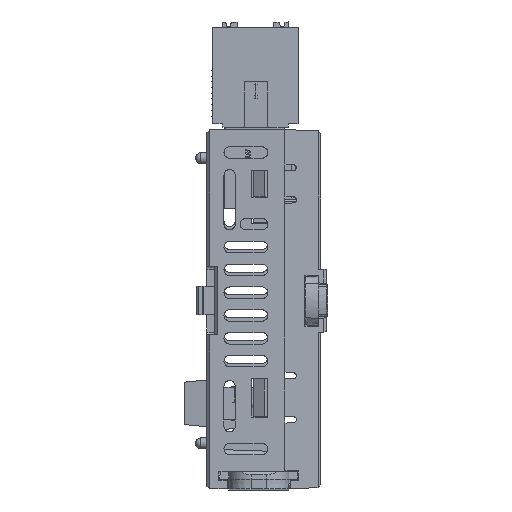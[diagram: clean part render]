
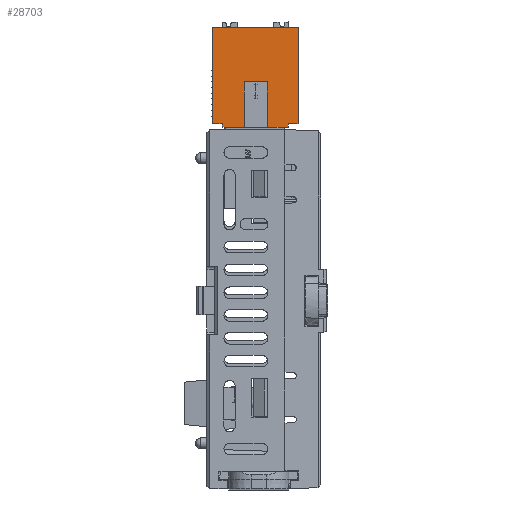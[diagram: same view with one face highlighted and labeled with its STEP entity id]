
A CAD part, front view. The second image highlights one B-rep face of the part: STEP entity #28703.
In plain terms, the highlighted planar face has unit normal (0, -1, 0).
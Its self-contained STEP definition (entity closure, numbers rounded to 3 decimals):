
#7825 = CARTESIAN_POINT ( 'NONE',  ( -11., -33.75, 31.071 ) ) ;
#8445 = ORIENTED_EDGE ( 'NONE', *, *, #54798, .F. ) ;
#10365 = VECTOR ( 'NONE', #15499, 1000. ) ;
#15499 = DIRECTION ( 'NONE',  ( 0., 0., 1. ) ) ;
#15787 = LINE ( 'NONE', #191424, #25684 ) ;
#18617 = VECTOR ( 'NONE', #120797, 1000. ) ;
#25684 = VECTOR ( 'NONE', #279278, 1000. ) ;
#26916 = DIRECTION ( 'NONE',  ( 1., 0., 0. ) ) ;
#27483 = EDGE_CURVE ( 'NONE', #73667, #74626, #212325, .T. ) ;
#28167 = LINE ( 'NONE', #268651, #266841 ) ;
#28703 = ADVANCED_FACE ( 'NONE', ( #116379 ), #250259, .T. ) ;
#29945 = CARTESIAN_POINT ( 'NONE',  ( -5.2, -33.75, 39.096 ) ) ;
#31491 = EDGE_CURVE ( 'NONE', #255649, #129790, #182288, .T. ) ;
#35276 = VERTEX_POINT ( 'NONE', #241452 ) ;
#35531 = ORIENTED_EDGE ( 'NONE', *, *, #161442, .T. ) ;
#36926 = CARTESIAN_POINT ( 'NONE',  ( 0.6, -33.75, 31.071 ) ) ;
#42639 = CARTESIAN_POINT ( 'NONE',  ( -12.7, -33.75, 47.821 ) ) ;
#42733 = VERTEX_POINT ( 'NONE', #215056 ) ;
#43043 = LINE ( 'NONE', #241737, #47686 ) ;
#43256 = CARTESIAN_POINT ( 'NONE',  ( -11., -33.75, 31.071 ) ) ;
#43845 = VERTEX_POINT ( 'NONE', #36926 ) ;
#44465 = EDGE_CURVE ( 'NONE', #176748, #257429, #247734, .T. ) ;
#47686 = VECTOR ( 'NONE', #282088, 1000. ) ;
#52284 = EDGE_CURVE ( 'NONE', #43845, #176748, #43043, .T. ) ;
#52514 = CARTESIAN_POINT ( 'NONE',  ( -3.1, -33.75, 38.371 ) ) ;
#54798 = EDGE_CURVE ( 'NONE', #100745, #257429, #260054, .T. ) ;
#57928 = VECTOR ( 'NONE', #59676, 1000. ) ;
#58702 = CARTESIAN_POINT ( 'NONE',  ( 0.6, -33.75, 30.371 ) ) ;
#59676 = DIRECTION ( 'NONE',  ( 1., 0., 0. ) ) ;
#63951 = ORIENTED_EDGE ( 'NONE', *, *, #168868, .F. ) ;
#68134 = CARTESIAN_POINT ( 'NONE',  ( -3.1, -33.75, 30.371 ) ) ;
#68532 = CARTESIAN_POINT ( 'NONE',  ( -10.65, -33.75, 30.371 ) ) ;
#69057 = ORIENTED_EDGE ( 'NONE', *, *, #98401, .F. ) ;
#73667 = VERTEX_POINT ( 'NONE', #275214 ) ;
#74352 = CARTESIAN_POINT ( 'NONE',  ( -3.1, -33.75, 30.371 ) ) ;
#74626 = VERTEX_POINT ( 'NONE', #52514 ) ;
#83006 = DIRECTION ( 'NONE',  ( 1., 0., 0. ) ) ;
#83885 = ORIENTED_EDGE ( 'NONE', *, *, #173694, .T. ) ;
#95242 = VERTEX_POINT ( 'NONE', #196346 ) ;
#95991 = CARTESIAN_POINT ( 'NONE',  ( -3.1, -33.75, 30.371 ) ) ;
#98072 = VECTOR ( 'NONE', #131073, 1000. ) ;
#98401 = EDGE_CURVE ( 'NONE', #198629, #42733, #241954, .T. ) ;
#99314 = VECTOR ( 'NONE', #228398, 1000. ) ;
#100610 = DIRECTION ( 'NONE',  ( 0., 0., 1. ) ) ;
#100745 = VERTEX_POINT ( 'NONE', #153134 ) ;
#102169 = ORIENTED_EDGE ( 'NONE', *, *, #195118, .T. ) ;
#107535 = CARTESIAN_POINT ( 'NONE',  ( -7.1, -33.75, 30.371 ) ) ;
#112388 = VECTOR ( 'NONE', #100610, 1000. ) ;
#114368 = ORIENTED_EDGE ( 'NONE', *, *, #284350, .T. ) ;
#116379 = FACE_OUTER_BOUND ( 'NONE', #206733, .T. ) ;
#117260 = CARTESIAN_POINT ( 'NONE',  ( 2.3, -33.75, 31.071 ) ) ;
#120797 = DIRECTION ( 'NONE',  ( 0., 0., -1. ) ) ;
#122741 = ORIENTED_EDGE ( 'NONE', *, *, #160328, .T. ) ;
#129790 = VERTEX_POINT ( 'NONE', #107535 ) ;
#131073 = DIRECTION ( 'NONE',  ( -1., 0., 0. ) ) ;
#132148 = AXIS2_PLACEMENT_3D ( 'NONE', #29945, #209831, #204221 ) ;
#133916 = CARTESIAN_POINT ( 'NONE',  ( -11., -33.75, 30.371 ) ) ;
#137279 = ORIENTED_EDGE ( 'NONE', *, *, #205689, .T. ) ;
#137676 = CARTESIAN_POINT ( 'NONE',  ( -11., -33.75, 30.371 ) ) ;
#153134 = CARTESIAN_POINT ( 'NONE',  ( -12.7, -33.75, 47.821 ) ) ;
#156490 = EDGE_CURVE ( 'NONE', #198629, #95242, #15787, .T. ) ;
#159576 = VECTOR ( 'NONE', #26916, 1000. ) ;
#160328 = EDGE_CURVE ( 'NONE', #223887, #35276, #271624, .T. ) ;
#161442 = EDGE_CURVE ( 'NONE', #35276, #260550, #273067, .T. ) ;
#164836 = CARTESIAN_POINT ( 'NONE',  ( -7.1, -33.75, 38.371 ) ) ;
#168263 = LINE ( 'NONE', #211482, #112388 ) ;
#168868 = EDGE_CURVE ( 'NONE', #42733, #100745, #28167, .T. ) ;
#170080 = CARTESIAN_POINT ( 'NONE',  ( 2.3, -33.75, 47.821 ) ) ;
#170932 = CARTESIAN_POINT ( 'NONE',  ( 0.6, -33.75, 30.371 ) ) ;
#173694 = EDGE_CURVE ( 'NONE', #260550, #43845, #217046, .T. ) ;
#176748 = VERTEX_POINT ( 'NONE', #117260 ) ;
#177122 = DIRECTION ( 'NONE',  ( 1., 0., 0. ) ) ;
#182288 = LINE ( 'NONE', #137676, #250507 ) ;
#184632 = ORIENTED_EDGE ( 'NONE', *, *, #27483, .T. ) ;
#189782 = ORIENTED_EDGE ( 'NONE', *, *, #156490, .T. ) ;
#191424 = CARTESIAN_POINT ( 'NONE',  ( -11., -33.75, 31.071 ) ) ;
#195118 = EDGE_CURVE ( 'NONE', #95242, #255649, #247600, .T. ) ;
#196346 = CARTESIAN_POINT ( 'NONE',  ( -11., -33.75, 30.371 ) ) ;
#198629 = VERTEX_POINT ( 'NONE', #7825 ) ;
#204221 = DIRECTION ( 'NONE',  ( 0., 0., 1. ) ) ;
#205689 = EDGE_CURVE ( 'NONE', #129790, #73667, #168263, .T. ) ;
#206733 = EDGE_LOOP ( 'NONE', ( #8445, #63951, #69057, #189782, #102169, #253022, #137279, #184632, #114368, #122741, #35531, #83885, #239544, #235846 ) ) ;
#208959 = VECTOR ( 'NONE', #83006, 1000. ) ;
#209831 = DIRECTION ( 'NONE',  ( 0., -1., 0. ) ) ;
#211482 = CARTESIAN_POINT ( 'NONE',  ( -7.1, -33.75, 30.371 ) ) ;
#212325 = LINE ( 'NONE', #164836, #57928 ) ;
#215056 = CARTESIAN_POINT ( 'NONE',  ( -12.7, -33.75, 31.071 ) ) ;
#217046 = LINE ( 'NONE', #58702, #10365 ) ;
#221282 = DIRECTION ( 'NONE',  ( 1., 0., 0. ) ) ;
#223887 = VERTEX_POINT ( 'NONE', #68134 ) ;
#226155 = CARTESIAN_POINT ( 'NONE',  ( 2.3, -33.75, 31.071 ) ) ;
#228398 = DIRECTION ( 'NONE',  ( 1., 0., 0. ) ) ;
#232532 = VECTOR ( 'NONE', #177122, 1000. ) ;
#235846 = ORIENTED_EDGE ( 'NONE', *, *, #44465, .T. ) ;
#239544 = ORIENTED_EDGE ( 'NONE', *, *, #52284, .T. ) ;
#241452 = CARTESIAN_POINT ( 'NONE',  ( -0.15, -33.75, 30.371 ) ) ;
#241737 = CARTESIAN_POINT ( 'NONE',  ( 0.6, -33.75, 31.071 ) ) ;
#241954 = LINE ( 'NONE', #43256, #98072 ) ;
#243495 = DIRECTION ( 'NONE',  ( 0., 0., 1. ) ) ;
#246260 = VECTOR ( 'NONE', #243495, 1000. ) ;
#247600 = LINE ( 'NONE', #133916, #232532 ) ;
#247734 = LINE ( 'NONE', #226155, #246260 ) ;
#250259 = PLANE ( 'NONE',  #132148 ) ;
#250507 = VECTOR ( 'NONE', #221282, 1000. ) ;
#253022 = ORIENTED_EDGE ( 'NONE', *, *, #31491, .T. ) ;
#255649 = VERTEX_POINT ( 'NONE', #68532 ) ;
#256058 = CARTESIAN_POINT ( 'NONE',  ( -3.1, -33.75, 38.371 ) ) ;
#257429 = VERTEX_POINT ( 'NONE', #170080 ) ;
#260054 = LINE ( 'NONE', #42639, #208959 ) ;
#260550 = VERTEX_POINT ( 'NONE', #170932 ) ;
#263349 = DIRECTION ( 'NONE',  ( 0., 0., 1. ) ) ;
#266841 = VECTOR ( 'NONE', #263349, 1000. ) ;
#268651 = CARTESIAN_POINT ( 'NONE',  ( -12.7, -33.75, 31.071 ) ) ;
#271624 = LINE ( 'NONE', #74352, #99314 ) ;
#273067 = LINE ( 'NONE', #95991, #159576 ) ;
#275214 = CARTESIAN_POINT ( 'NONE',  ( -7.1, -33.75, 38.371 ) ) ;
#277691 = LINE ( 'NONE', #256058, #18617 ) ;
#279278 = DIRECTION ( 'NONE',  ( 0., 0., -1. ) ) ;
#282088 = DIRECTION ( 'NONE',  ( 1., 0., 0. ) ) ;
#284350 = EDGE_CURVE ( 'NONE', #74626, #223887, #277691, .T. ) ;
